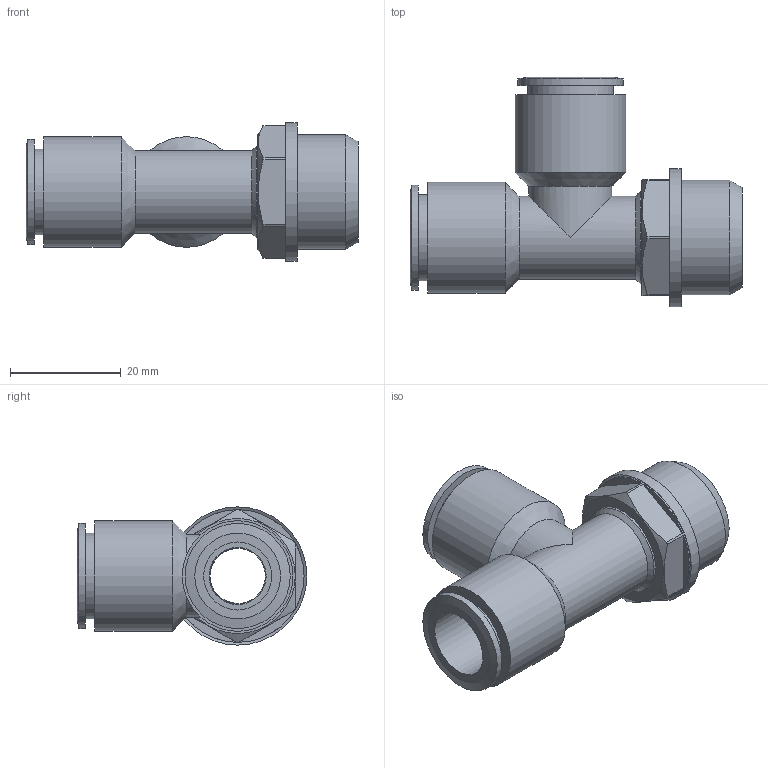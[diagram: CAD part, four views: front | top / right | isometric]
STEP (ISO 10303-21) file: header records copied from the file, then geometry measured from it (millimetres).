
FILE_DESCRIPTION((''),'2;1');
FILE_NAME('C:\Documents and Settings\rivolro1\Documenti\copia di Raccordi\PLASTICA\T21XXXX\T211212.stp','2007-11-02T08:40:05',('Rivolro1'),(''),'Autodesk Inventor 2008','Autodesk Inventor 2008','');
FILE_SCHEMA(('AUTOMOTIVE_DESIGN { 1 0 10303 214 1 1 1 1 }'));
Length unit declared in the file: millimetre
Products named in the file (1): T211212
Bounding box: 60 x 41.5 x 25 mm (x, y, z)
Volume: 14441.3 mm3; surface area: 9433 mm2
Topology: 1 solids, 1 shells, 58 faces, 122 edges, 78 vertices
Faces by surface type: plane 25, cylinder 20, cone 8, bspline 5
Full cylindrical faces by diameter (mm): 10 x1, 10.3 x2, 15 x2, 15.5 x2, 16.6 x1, 16.8 x1, 19 x2, 20 x2, 20.7 x1, 24 x1, 25 x1
Entity records: 1693 total; most frequent: CARTESIAN_POINT 479, DIRECTION 244, ORIENTED_EDGE 180, AXIS2_PLACEMENT_3D 111, EDGE_LOOP 98, EDGE_CURVE 90, VERTEX_POINT 72, FACE_OUTER_BOUND 58
